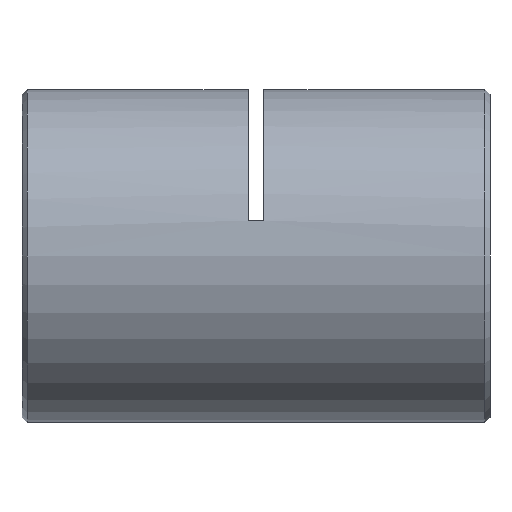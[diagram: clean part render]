
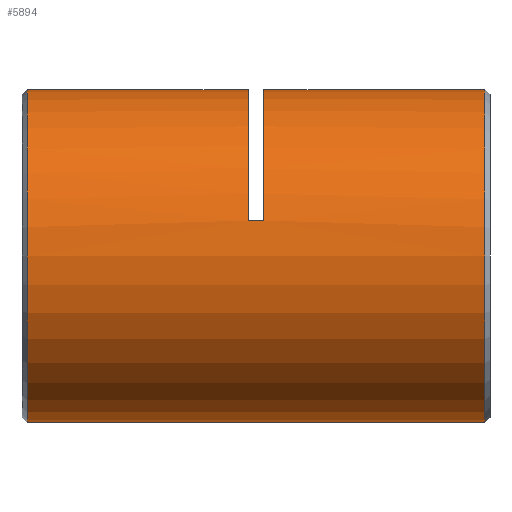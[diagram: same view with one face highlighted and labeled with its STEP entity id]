
A CAD part, left-side view. The second image highlights one B-rep face of the part: STEP entity #5894.
In plain terms, the highlighted cylindrical face has radius 16 mm (diameter 32 mm), a partial arc.
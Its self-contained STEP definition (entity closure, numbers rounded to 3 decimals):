
#4 = CARTESIAN_POINT ( 'NONE',  ( 0., 22., 0. ) ) ;
#42 = CARTESIAN_POINT ( 'NONE',  ( 0., 0.75, 16. ) ) ;
#56 = CARTESIAN_POINT ( 'NONE',  ( 0., 0., -16. ) ) ;
#60 = DIRECTION ( 'NONE',  ( 0., 1., 0. ) ) ;
#155 = DIRECTION ( 'NONE',  ( 0., -1., 0. ) ) ;
#317 = EDGE_CURVE ( 'NONE', #922, #462, #3966, .T. ) ;
#371 = VECTOR ( 'NONE', #1638, 1000. ) ;
#462 = VERTEX_POINT ( 'NONE', #3605 ) ;
#502 = AXIS2_PLACEMENT_3D ( 'NONE', #4, #60, #5020 ) ;
#643 = ORIENTED_EDGE ( 'NONE', *, *, #3620, .T. ) ;
#669 = CARTESIAN_POINT ( 'NONE',  ( 0., 44.75, 0. ) ) ;
#679 = CARTESIAN_POINT ( 'NONE',  ( -15.632, 22., 3.413 ) ) ;
#684 = ORIENTED_EDGE ( 'NONE', *, *, #317, .T. ) ;
#704 = DIRECTION ( 'NONE',  ( 0., 0., -1. ) ) ;
#846 = VERTEX_POINT ( 'NONE', #3319 ) ;
#859 = VERTEX_POINT ( 'NONE', #2414 ) ;
#922 = VERTEX_POINT ( 'NONE', #42 ) ;
#1052 = CARTESIAN_POINT ( 'NONE',  ( 0., 44.75, -16. ) ) ;
#1082 = VERTEX_POINT ( 'NONE', #679 ) ;
#1083 = DIRECTION ( 'NONE',  ( 0., 1., 0. ) ) ;
#1133 = DIRECTION ( 'NONE',  ( 0., 0., 1. ) ) ;
#1235 = AXIS2_PLACEMENT_3D ( 'NONE', #669, #155, #704 ) ;
#1351 = EDGE_CURVE ( 'NONE', #859, #1697, #3195, .T. ) ;
#1377 = CARTESIAN_POINT ( 'NONE',  ( 0., 23.5, 0. ) ) ;
#1402 = VECTOR ( 'NONE', #1083, 1000. ) ;
#1463 = CARTESIAN_POINT ( 'NONE',  ( 0., 23.5, 16. ) ) ;
#1638 = DIRECTION ( 'NONE',  ( 0., 1., 0. ) ) ;
#1689 = DIRECTION ( 'NONE',  ( 0., 0., 1. ) ) ;
#1697 = VERTEX_POINT ( 'NONE', #1052 ) ;
#1765 = CARTESIAN_POINT ( 'NONE',  ( -15.632, 23.5, 3.413 ) ) ;
#1852 = ORIENTED_EDGE ( 'NONE', *, *, #3737, .T. ) ;
#2045 = CARTESIAN_POINT ( 'NONE',  ( 0., 0., 0. ) ) ;
#2220 = EDGE_CURVE ( 'NONE', #1082, #462, #4606, .T. ) ;
#2398 = DIRECTION ( 'NONE',  ( 0., 0., 1. ) ) ;
#2414 = CARTESIAN_POINT ( 'NONE',  ( 0., 44.75, 16. ) ) ;
#2614 = DIRECTION ( 'NONE',  ( 0., 1., 0. ) ) ;
#2703 = CARTESIAN_POINT ( 'NONE',  ( 0., 0.75, 0. ) ) ;
#2753 = VECTOR ( 'NONE', #5304, 1000. ) ;
#2760 = VECTOR ( 'NONE', #5912, 1000. ) ;
#2806 = DIRECTION ( 'NONE',  ( 0., 1., 0. ) ) ;
#2862 = AXIS2_PLACEMENT_3D ( 'NONE', #1377, #2806, #2398 ) ;
#3153 = AXIS2_PLACEMENT_3D ( 'NONE', #2045, #4070, #1133 ) ;
#3195 = CIRCLE ( 'NONE', #1235, 16. ) ;
#3319 = CARTESIAN_POINT ( 'NONE',  ( 0., 0.75, -16. ) ) ;
#3348 = LINE ( 'NONE', #3853, #2753 ) ;
#3381 = ORIENTED_EDGE ( 'NONE', *, *, #4935, .F. ) ;
#3605 = CARTESIAN_POINT ( 'NONE',  ( 0., 22., 16. ) ) ;
#3620 = EDGE_CURVE ( 'NONE', #4631, #859, #5599, .T. ) ;
#3648 = AXIS2_PLACEMENT_3D ( 'NONE', #2703, #2614, #1689 ) ;
#3722 = ORIENTED_EDGE ( 'NONE', *, *, #4174, .T. ) ;
#3737 = EDGE_CURVE ( 'NONE', #6323, #4631, #5008, .T. ) ;
#3853 = CARTESIAN_POINT ( 'NONE',  ( -15.632, 22.75, 3.413 ) ) ;
#3966 = LINE ( 'NONE', #5449, #2760 ) ;
#4070 = DIRECTION ( 'NONE',  ( 0., 1., 0. ) ) ;
#4174 = EDGE_CURVE ( 'NONE', #1082, #6323, #3348, .T. ) ;
#4483 = CYLINDRICAL_SURFACE ( 'NONE', #3153, 16. ) ;
#4606 = CIRCLE ( 'NONE', #502, 16. ) ;
#4631 = VERTEX_POINT ( 'NONE', #1463 ) ;
#4683 = CIRCLE ( 'NONE', #3648, 16. ) ;
#4935 = EDGE_CURVE ( 'NONE', #846, #1697, #5528, .T. ) ;
#5008 = CIRCLE ( 'NONE', #2862, 16. ) ;
#5016 = EDGE_LOOP ( 'NONE', ( #3381, #5100, #684, #5680, #3722, #1852, #643, #6086 ) ) ;
#5020 = DIRECTION ( 'NONE',  ( 0., 0., 1. ) ) ;
#5091 = FACE_OUTER_BOUND ( 'NONE', #5016, .T. ) ;
#5100 = ORIENTED_EDGE ( 'NONE', *, *, #5119, .T. ) ;
#5119 = EDGE_CURVE ( 'NONE', #846, #922, #4683, .T. ) ;
#5304 = DIRECTION ( 'NONE',  ( 0., 1., 0. ) ) ;
#5449 = CARTESIAN_POINT ( 'NONE',  ( 0., 0., 16. ) ) ;
#5528 = LINE ( 'NONE', #56, #1402 ) ;
#5599 = LINE ( 'NONE', #6046, #371 ) ;
#5680 = ORIENTED_EDGE ( 'NONE', *, *, #2220, .F. ) ;
#5894 = ADVANCED_FACE ( 'NONE', ( #5091 ), #4483, .T. ) ;
#5912 = DIRECTION ( 'NONE',  ( 0., 1., 0. ) ) ;
#6046 = CARTESIAN_POINT ( 'NONE',  ( 0., 0., 16. ) ) ;
#6086 = ORIENTED_EDGE ( 'NONE', *, *, #1351, .T. ) ;
#6323 = VERTEX_POINT ( 'NONE', #1765 ) ;
